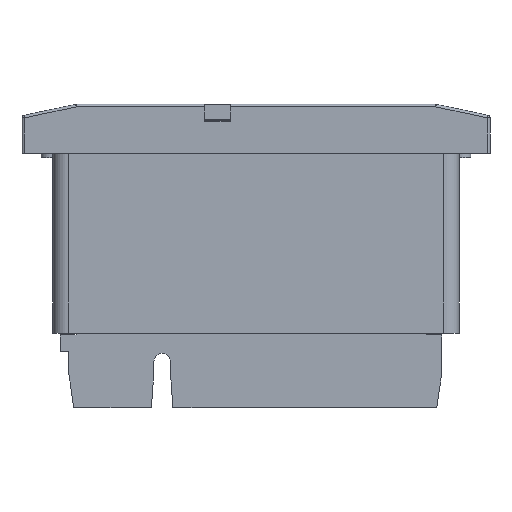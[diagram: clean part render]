
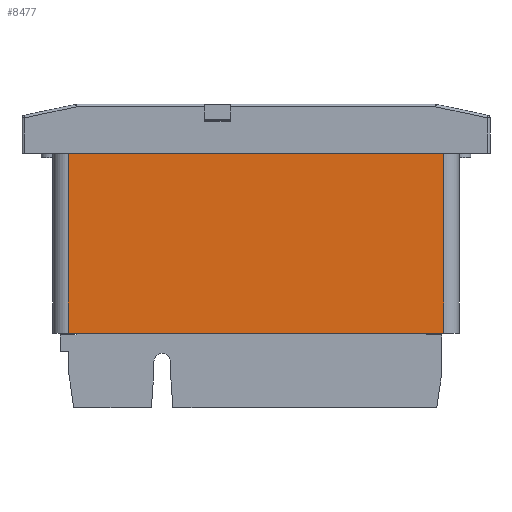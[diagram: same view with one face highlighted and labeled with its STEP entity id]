
A CAD part, front view. The second image highlights one B-rep face of the part: STEP entity #8477.
In plain terms, the highlighted planar face has unit normal (0, -1, 0).
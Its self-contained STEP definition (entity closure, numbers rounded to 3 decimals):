
#8419=CARTESIAN_POINT('',(253.087,57.908,0.0));
#8420=VERTEX_POINT('',#8419);
#8428=CARTESIAN_POINT('',(253.087,57.908,-35.0));
#8429=VERTEX_POINT('',#8428);
#8430=CARTESIAN_POINT('',(253.087,57.908,0.0));
#8431=DIRECTION('',(0.0,0.0,-1.0));
#8432=VECTOR('',#8431,35.0);
#8433=LINE('',#8430,#8432);
#8434=EDGE_CURVE('',#8420,#8429,#8433,.T.);
#8447=CARTESIAN_POINT('',(179.987,57.908,9.5));
#8448=DIRECTION('',(0.0,-1.0,0.0));
#8449=DIRECTION('',(0.0,0.0,-1.0));
#8450=AXIS2_PLACEMENT_3D('',#8447,#8448,#8449);
#8451=PLANE('',#8450);
#8452=CARTESIAN_POINT('',(179.987,57.908,0.0));
#8453=VERTEX_POINT('',#8452);
#8454=CARTESIAN_POINT('',(179.987,57.908,0.0));
#8455=DIRECTION('',(1.0,0.0,0.0));
#8456=VECTOR('',#8455,73.1);
#8457=LINE('',#8454,#8456);
#8458=EDGE_CURVE('',#8453,#8420,#8457,.T.);
#8459=ORIENTED_EDGE('',*,*,#8458,.F.);
#8460=CARTESIAN_POINT('',(179.987,57.908,-35.0));
#8461=VERTEX_POINT('',#8460);
#8462=CARTESIAN_POINT('',(179.987,57.908,0.0));
#8463=DIRECTION('',(0.0,0.0,-1.0));
#8464=VECTOR('',#8463,35.0);
#8465=LINE('',#8462,#8464);
#8466=EDGE_CURVE('',#8453,#8461,#8465,.T.);
#8467=ORIENTED_EDGE('',*,*,#8466,.T.);
#8468=CARTESIAN_POINT('',(179.987,57.908,-35.0));
#8469=DIRECTION('',(1.0,0.0,0.0));
#8470=VECTOR('',#8469,73.1);
#8471=LINE('',#8468,#8470);
#8472=EDGE_CURVE('',#8461,#8429,#8471,.T.);
#8473=ORIENTED_EDGE('',*,*,#8472,.T.);
#8474=ORIENTED_EDGE('',*,*,#8434,.F.);
#8475=EDGE_LOOP('',(#8459,#8467,#8473,#8474));
#8476=FACE_OUTER_BOUND('',#8475,.T.);
#8477=ADVANCED_FACE('',(#8476),#8451,.T.);
